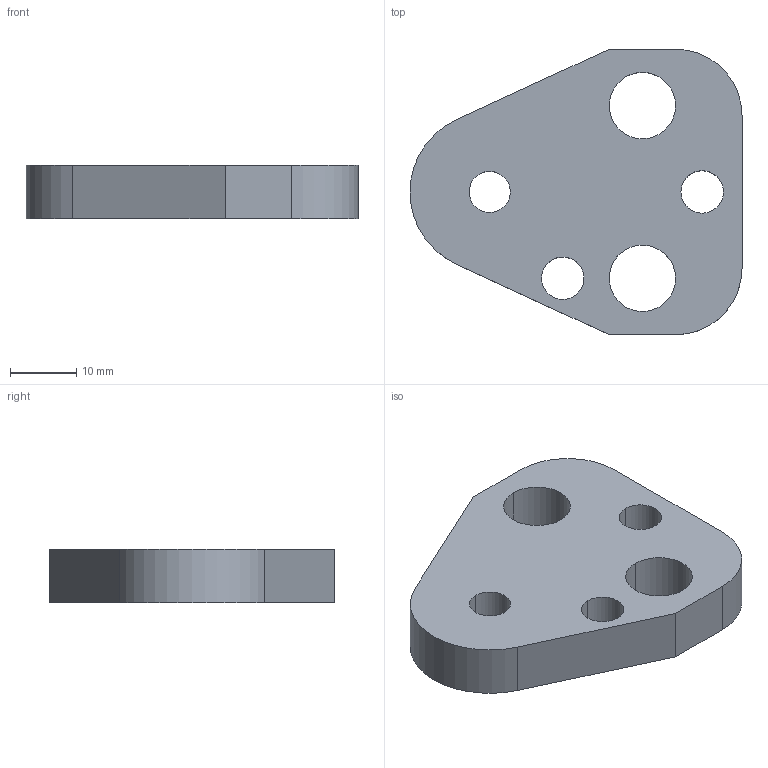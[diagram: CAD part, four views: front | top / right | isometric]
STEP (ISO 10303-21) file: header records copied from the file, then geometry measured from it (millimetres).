
FILE_DESCRIPTION(/* description */ (''),/* implementation_level */ '2;1');
FILE_NAME(/* name */ '3d_bpc13-8_03430_r00.stp',/* time_stamp */ '2011-01-10T14:17:10+09:00',/* author */ ('MISUMI'),/* organization */ (''),/* preprocessor_version */ 'ST-DEVELOPER v11',/* originating_system */ 'UGS - NX 5.0',/* authorisation */ '');
FILE_SCHEMA (('CONFIG_CONTROL_DESIGN'));
Length unit declared in the file: millimetre
Products named in the file (1): 3d_bpc13-8_03430_r00
Bounding box: 50 x 43 x 8 mm (x, y, z)
Volume: 11365.1 mm3; surface area: 5041 mm2
Topology: 1 solids, 1 shells, 20 faces, 54 edges, 36 vertices
Faces by surface type: cylinder 13, plane 7
Entity records: 750 total; most frequent: DIRECTION 122, CARTESIAN_POINT 111, ORIENTED_EDGE 108, EDGE_CURVE 54, AXIS2_PLACEMENT_3D 47, VERTEX_POINT 36, EDGE_LOOP 30, LINE 28
